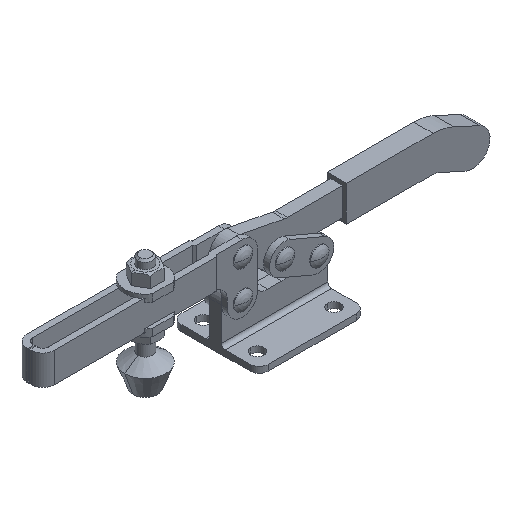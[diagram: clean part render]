
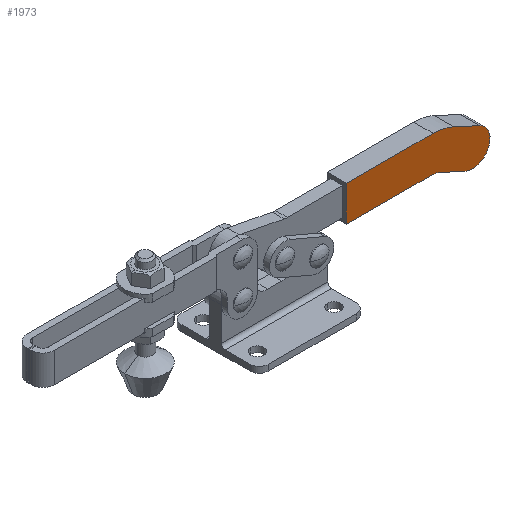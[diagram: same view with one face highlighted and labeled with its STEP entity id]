
A CAD part, isometric view. The second image highlights one B-rep face of the part: STEP entity #1973.
In plain terms, the highlighted planar face has unit normal (0, -1, 0).
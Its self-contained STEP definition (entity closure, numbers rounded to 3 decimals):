
#1902=CARTESIAN_POINT('Axis2P3D Location',(0.,-5.2,0.)) ;
#1907=CARTESIAN_POINT('Axis2P3D Location',(149.13,-5.2,20.106)) ;
#1911=CARTESIAN_POINT('Cartesian Point',(152.088,-5.2,26.45)) ;
#1913=CARTESIAN_POINT('Cartesian Point',(149.13,-5.2,27.106)) ;
#1916=CARTESIAN_POINT('Line Origine',(159.118,-5.2,23.171)) ;
#1920=CARTESIAN_POINT('Cartesian Point',(166.149,-5.2,19.893)) ;
#1923=CARTESIAN_POINT('Axis2P3D Location',(170.164,-5.2,28.503)) ;
#1927=CARTESIAN_POINT('Cartesian Point',(174.179,-5.2,37.113)) ;
#1930=CARTESIAN_POINT('Line Origine',(167.148,-5.2,40.391)) ;
#1934=CARTESIAN_POINT('Cartesian Point',(160.118,-5.2,43.67)) ;
#1937=CARTESIAN_POINT('Axis2P3D Location',(149.13,-5.2,20.106)) ;
#1941=CARTESIAN_POINT('Cartesian Point',(149.13,-5.2,46.106)) ;
#1944=CARTESIAN_POINT('Line Origine',(125.897,-5.2,46.106)) ;
#1948=CARTESIAN_POINT('Cartesian Point',(102.664,-5.2,46.106)) ;
#1951=CARTESIAN_POINT('Line Origine',(102.664,-5.2,36.606)) ;
#1955=CARTESIAN_POINT('Cartesian Point',(102.664,-5.2,27.106)) ;
#1958=CARTESIAN_POINT('Line Origine',(125.897,-5.2,27.106)) ;
#1903=DIRECTION('Axis2P3D Direction',(0.,1.,0.)) ;
#1904=DIRECTION('Axis2P3D XDirection',(0.,0.,-1.)) ;
#1908=DIRECTION('Axis2P3D Direction',(0.,1.,0.)) ;
#1917=DIRECTION('Vector Direction',(0.906,0.,-0.423)) ;
#1924=DIRECTION('Axis2P3D Direction',(0.,1.,0.)) ;
#1931=DIRECTION('Vector Direction',(0.906,0.,-0.423)) ;
#1938=DIRECTION('Axis2P3D Direction',(0.,1.,0.)) ;
#1945=DIRECTION('Vector Direction',(1.,0.,0.)) ;
#1952=DIRECTION('Vector Direction',(0.,0.,1.)) ;
#1959=DIRECTION('Vector Direction',(1.,0.,0.)) ;
#1905=AXIS2_PLACEMENT_3D('Plane Axis2P3D',#1902,#1903,#1904) ;
#1909=AXIS2_PLACEMENT_3D('Circle Axis2P3D',#1907,#1908,$) ;
#1925=AXIS2_PLACEMENT_3D('Circle Axis2P3D',#1923,#1924,$) ;
#1939=AXIS2_PLACEMENT_3D('Circle Axis2P3D',#1937,#1938,$) ;
#1964=ORIENTED_EDGE('Oriented Edge',*,*,#1915,.F.) ;
#1965=ORIENTED_EDGE('Oriented Edge',*,*,#1922,.T.) ;
#1966=ORIENTED_EDGE('Oriented Edge',*,*,#1929,.T.) ;
#1967=ORIENTED_EDGE('Oriented Edge',*,*,#1936,.F.) ;
#1968=ORIENTED_EDGE('Oriented Edge',*,*,#1943,.T.) ;
#1969=ORIENTED_EDGE('Oriented Edge',*,*,#1950,.F.) ;
#1970=ORIENTED_EDGE('Oriented Edge',*,*,#1957,.F.) ;
#1971=ORIENTED_EDGE('Oriented Edge',*,*,#1962,.T.) ;
#1918=VECTOR('Line Direction',#1917,1.) ;
#1932=VECTOR('Line Direction',#1931,1.) ;
#1946=VECTOR('Line Direction',#1945,1.) ;
#1953=VECTOR('Line Direction',#1952,1.) ;
#1960=VECTOR('Line Direction',#1959,1.) ;
#1973=ADVANCED_FACE('',(#1972),#1906,.F.) ;
#1910=CIRCLE('generated circle',#1909,7.) ;
#1926=CIRCLE('generated circle',#1925,9.5) ;
#1940=CIRCLE('generated circle',#1939,26.) ;
#1915=EDGE_CURVE('',#1912,#1914,#1910,.F.) ;
#1922=EDGE_CURVE('',#1912,#1921,#1919,.T.) ;
#1929=EDGE_CURVE('',#1921,#1928,#1926,.F.) ;
#1936=EDGE_CURVE('',#1935,#1928,#1933,.T.) ;
#1943=EDGE_CURVE('',#1935,#1942,#1940,.F.) ;
#1950=EDGE_CURVE('',#1949,#1942,#1947,.T.) ;
#1957=EDGE_CURVE('',#1956,#1949,#1954,.T.) ;
#1962=EDGE_CURVE('',#1956,#1914,#1961,.T.) ;
#1963=EDGE_LOOP('Oriented Loop',(#1964,#1965,#1966,#1967,#1968,#1969,#1970,#1971)) ;
#1972=FACE_OUTER_BOUND('Face Bound',#1963,.T.) ;
#1919=LINE('Line',#1916,#1918) ;
#1933=LINE('Line',#1930,#1932) ;
#1947=LINE('Line',#1944,#1946) ;
#1954=LINE('Line',#1951,#1953) ;
#1961=LINE('Line',#1958,#1960) ;
#1906=PLANE('Plane',#1905) ;
#1912=VERTEX_POINT('Vertex Point',#1911) ;
#1914=VERTEX_POINT('Vertex Point',#1913) ;
#1921=VERTEX_POINT('Vertex Point',#1920) ;
#1928=VERTEX_POINT('Vertex Point',#1927) ;
#1935=VERTEX_POINT('Vertex Point',#1934) ;
#1942=VERTEX_POINT('Vertex Point',#1941) ;
#1949=VERTEX_POINT('Vertex Point',#1948) ;
#1956=VERTEX_POINT('Vertex Point',#1955) ;
